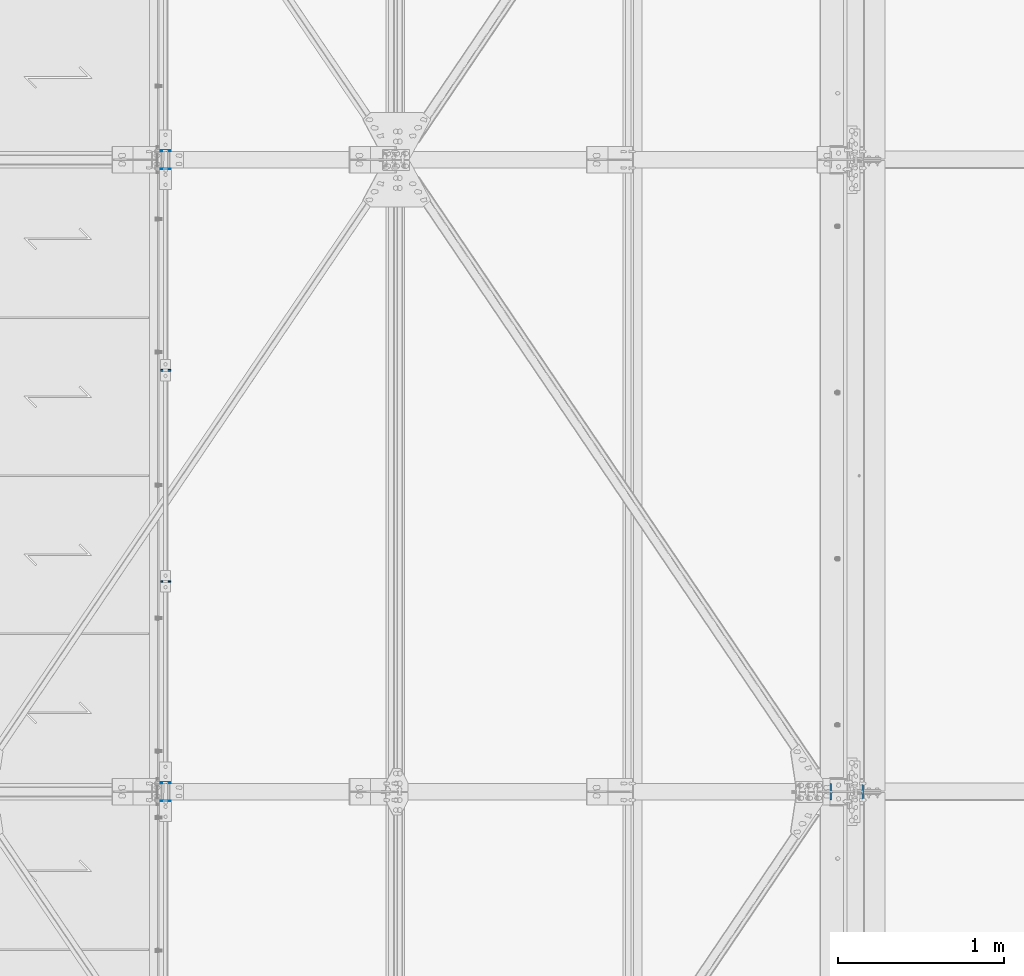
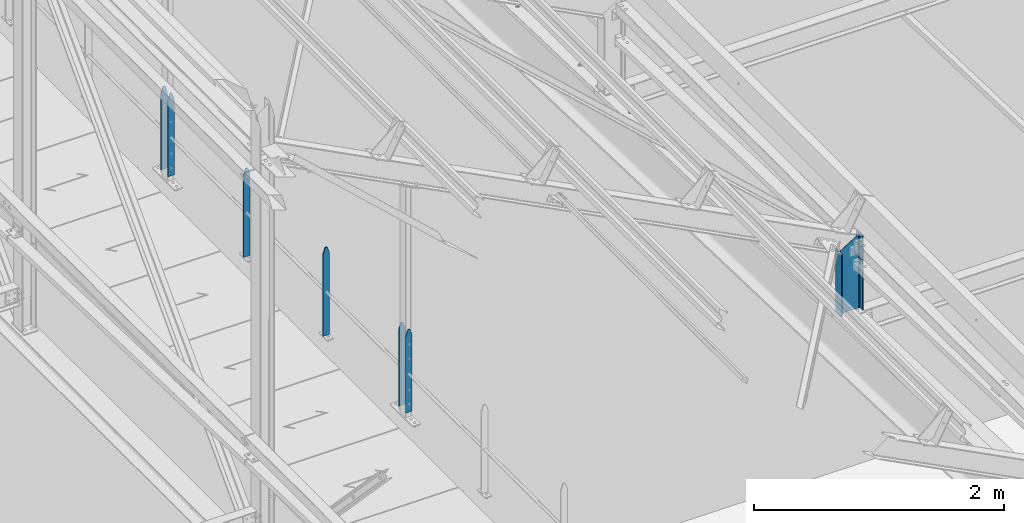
# One storey, part 32 of 362: 7 columns, 4 elements without a shape of their own.
"""IFC2X3 building model written with IfcOpenShell, lengths in millimetres."""

from ifc_helpers import new_model, si_unit, frame, origin_with_axes, origin_2d_with_axis, place, context, subcontext, project, spatial, rectangle, i_section, extrude, clip, halfspace, material, type_object, element, aggregate, save


model = new_model("IFC2X3")

# Units and contexts
model_context = context("Model", 3, precision=1e-05, world=origin_with_axes())
body_context = subcontext(model_context, "Body", "Model", "MODEL_VIEW")
ifc_project = project(units=[si_unit("LENGTHUNIT", "METRE", prefix="MILLI"), si_unit("AREAUNIT", "SQUARE_METRE"), si_unit("VOLUMEUNIT", "CUBIC_METRE"), si_unit("MASSUNIT", "GRAM", prefix="KILO"), si_unit("TIMEUNIT", "SECOND"), si_unit("PLANEANGLEUNIT", "RADIAN"), si_unit("SOLIDANGLEUNIT", "STERADIAN"), si_unit("THERMODYNAMICTEMPERATUREUNIT", "DEGREE_CELSIUS"), si_unit("LUMINOUSINTENSITYUNIT", "LUMEN")], contexts=[model_context])

# Site, building, storey
site_placement = place(None, origin_with_axes())
site = spatial("IfcSite", under=ifc_project, at=site_placement, Name="Undefined", CompositionType="ELEMENT")
building_placement = place(site_placement, origin_with_axes())
building = spatial("IfcBuilding", under=site, at=building_placement, Name="Undefined", CompositionType="ELEMENT")
storey_placement = place(building_placement, origin_with_axes())
storey = spatial("IfcBuildingStorey", under=building, at=storey_placement, Name="Undefined", CompositionType="ELEMENT", Elevation=0.0)

# Assembly, columns
assembly_1_placement = place(storey_placement, origin_with_axes())
assembly_1 = element("IfcElementAssembly", 1, at=assembly_1_placement, inside=storey, Name="MAIN COURANTE", AssemblyPlace="NOTDEFINED", PredefinedType="NOTDEFINED")
ifc_material_1 = material(Name="Undefined/S235-E24")
column_type_1 = type_object("IfcColumnType", Name="PL10*60", PredefinedType="NOTDEFINED")
column_1_placement = place(assembly_1_placement, frame((24783.991604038, 8865.0034395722, 8250.00000282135), z_axis=(0.0, 0.0, 1.0), x_axis=(1.0, 0.0, 0.0)))
column_1 = element("IfcColumn", 2, at=column_1_placement, type_object=column_type_1, material=ifc_material_1, Name="MONTANT", ObjectType="PL10*60", context=body_context, shape_type="Clipping", body=[
    clip(clip(extrude(rectangle(XDim=10.0, YDim=60.0, at=origin_2d_with_axis()), frame((0.0, 0.0, 857.599997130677), z_axis=(0.0, 0.0, -1.0), x_axis=(0.0, 1.0, 0.0)), (0.0, 0.0, 1.0), 857.6), halfspace(frame((30.0000001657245, -5.000000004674, 797.599997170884), z_axis=(0.948683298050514, 0.0, 0.316227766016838), x_axis=(-0.316227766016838, 0.0, 0.948683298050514)), False)), halfspace(frame((-29.9999998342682, 4.99999999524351, 797.599997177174), z_axis=(-0.948683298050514, 0.0, 0.316227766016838), x_axis=(0.316227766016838, 0.0, 0.948683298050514)), False)),
])
column_2_placement = place(assembly_1_placement, frame((24783.9916050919, 10135.0034395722, 8250.00000195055), z_axis=(0.0, 0.0, 1.0), x_axis=(1.0, 0.0, 0.0)))
column_2 = element("IfcColumn", 3, at=column_2_placement, type_object=column_type_1, material=ifc_material_1, Name="MONTANT", ObjectType="PL10*60", context=body_context, shape_type="Clipping", body=[
    clip(clip(extrude(rectangle(XDim=10.0, YDim=60.0, at=origin_2d_with_axis()), frame((0.0, 0.0, 857.599997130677), z_axis=(0.0, 0.0, -1.0), x_axis=(0.0, 1.0, 0.0)), (0.0, 0.0, 1.0), 857.6), halfspace(frame((30.0000001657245, -5.000000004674, 797.599997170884), z_axis=(0.948683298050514, 0.0, 0.316227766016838), x_axis=(-0.316227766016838, 0.0, 0.948683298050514)), False)), halfspace(frame((-29.9999998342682, 4.99999999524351, 797.599997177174), z_axis=(-0.948683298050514, 0.0, 0.316227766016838), x_axis=(0.316227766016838, 0.0, 0.948683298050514)), False)),
])

# Assembly, column
assembly_2_placement = place(storey_placement, origin_with_axes())
assembly_2 = element("IfcElementAssembly", 4, at=assembly_2_placement, inside=storey, Name="MAIN COURANTE", AssemblyPlace="NOTDEFINED", PredefinedType="NOTDEFINED")
column_type_2 = type_object("IfcColumnType", Name="PL5*60", PredefinedType="NOTDEFINED")
column_3_placement = place(assembly_2_placement, frame((24783.9916033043, 7545.00000132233, 8300.0000038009), z_axis=(0.0, 0.0, 1.0), x_axis=(1.0, 0.0, 0.0)))
column_3 = element("IfcColumn", 5, at=column_3_placement, type_object=column_type_2, material=ifc_material_1, Name="MONTANT", ObjectType="PL5*60", context=body_context, shape_type="Clipping", body=[
    clip(clip(extrude(rectangle(XDim=5.0, YDim=60.0, at=origin_2d_with_axis()), frame((0.0, 0.0, 807.599997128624), z_axis=(0.0, 0.0, -1.0), x_axis=(0.0, 1.0, 0.0)), (0.0, 0.0, 1.0), 807.6), halfspace(frame((29.9999999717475, -5.00000000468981, 747.599997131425), z_axis=(0.948683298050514, 0.0, 0.316227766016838), x_axis=(-0.316227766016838, 0.0, 0.948683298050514)), False)), halfspace(frame((-30.000000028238, 4.99999999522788, 747.599997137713), z_axis=(-0.948683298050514, 0.0, 0.316227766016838), x_axis=(0.316227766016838, 0.0, 0.948683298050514)), False)),
])
aggregate(assembly_2, [column_3])

assembly_3_placement = place(storey_placement, origin_with_axes())
assembly_3 = element("IfcElementAssembly", 6, at=assembly_3_placement, inside=storey, Name="MAIN COURANTE", AssemblyPlace="NOTDEFINED", PredefinedType="NOTDEFINED")
column_4_placement = place(assembly_3_placement, frame((24783.9916060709, 11455.000001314, 8300.00000101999), z_axis=(0.0, 0.0, 1.0), x_axis=(1.0, 0.0, 0.0)))
column_4 = element("IfcColumn", 7, at=column_4_placement, type_object=column_type_2, material=ifc_material_1, Name="MONTANT", ObjectType="PL5*60", context=body_context, shape_type="Clipping", body=[
    clip(clip(extrude(rectangle(XDim=5.0, YDim=60.0, at=origin_2d_with_axis()), frame((0.0, 0.0, 807.599997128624), z_axis=(0.0, 0.0, -1.0), x_axis=(0.0, 1.0, 0.0)), (0.0, 0.0, 1.0), 807.6), halfspace(frame((29.9999999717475, -5.00000000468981, 747.599997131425), z_axis=(0.948683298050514, 0.0, 0.316227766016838), x_axis=(-0.316227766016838, 0.0, 0.948683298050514)), False)), halfspace(frame((-30.000000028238, 4.99999999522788, 747.599997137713), z_axis=(-0.948683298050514, 0.0, 0.316227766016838), x_axis=(0.316227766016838, 0.0, 0.948683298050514)), False)),
])
aggregate(assembly_3, [column_4])

# Column
column_5_placement = place(assembly_1_placement, frame((24783.9916033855, 7655.00000131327, 8300.00000372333), z_axis=(0.0, 0.0, 1.0), x_axis=(1.0, 0.0, 0.0)))
column_5 = element("IfcColumn", 8, at=column_5_placement, type_object=column_type_2, material=ifc_material_1, Name="MONTANT", ObjectType="PL5*60", context=body_context, shape_type="Clipping", body=[
    clip(clip(extrude(rectangle(XDim=5.0, YDim=60.0, at=origin_2d_with_axis()), frame((0.0, 0.0, 807.599997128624), z_axis=(0.0, 0.0, -1.0), x_axis=(0.0, 1.0, 0.0)), (0.0, 0.0, 1.0), 807.6), halfspace(frame((29.9999999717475, -5.00000000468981, 747.599997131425), z_axis=(0.948683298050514, 0.0, 0.316227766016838), x_axis=(-0.316227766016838, 0.0, 0.948683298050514)), False)), halfspace(frame((-30.000000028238, 4.99999999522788, 747.599997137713), z_axis=(-0.948683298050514, 0.0, 0.316227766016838), x_axis=(0.316227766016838, 0.0, 0.948683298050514)), False)),
])

column_6_placement = place(assembly_1_placement, frame((24783.9916059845, 11345.0000013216, 8300.00000109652), z_axis=(0.0, 0.0, 1.0), x_axis=(1.0, 0.0, 0.0)))
column_6 = element("IfcColumn", 9, at=column_6_placement, type_object=column_type_2, material=ifc_material_1, Name="MONTANT", ObjectType="PL5*60", context=body_context, shape_type="Clipping", body=[
    clip(clip(extrude(rectangle(XDim=5.0, YDim=60.0, at=origin_2d_with_axis()), frame((0.0, 0.0, 807.599997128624), z_axis=(0.0, 0.0, -1.0), x_axis=(0.0, 1.0, 0.0)), (0.0, 0.0, 1.0), 807.6), halfspace(frame((29.9999999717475, -5.00000000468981, 747.599997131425), z_axis=(0.948683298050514, 0.0, 0.316227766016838), x_axis=(-0.316227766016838, 0.0, 0.948683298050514)), False)), halfspace(frame((-30.000000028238, 4.99999999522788, 747.599997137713), z_axis=(-0.948683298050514, 0.0, 0.316227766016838), x_axis=(0.316227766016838, 0.0, 0.948683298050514)), False)),
])

aggregate(assembly_1, [column_5, column_1, column_6, column_2])

# Assembly, column
assembly_4_placement = place(storey_placement, origin_with_axes())
assembly_4 = element("IfcElementAssembly", 10, at=assembly_4_placement, inside=storey, Name="TRAVERSE SHED", AssemblyPlace="NOTDEFINED", PredefinedType="NOTDEFINED")
ifc_material_2 = material(Name="Undefined/S275-E28")
column_type_3 = type_object("IfcColumnType", Name="IPE200", PredefinedType="NOTDEFINED")
column_7_placement = place(assembly_4_placement, frame((28880.0, 7600.0, 7811.16037857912), z_axis=(0.0, 0.0, 1.0), x_axis=(-1.0, 0.0, 0.0)))
column_7 = element("IfcColumn", 11, at=column_7_placement, type_object=column_type_3, material=ifc_material_2, Name="TRAVERSE SHED", ObjectType="IPE200", context=body_context, shape_type="Clipping", body=[
    clip(clip(extrude(i_section(OverallWidth=100.0, OverallDepth=200.0, WebThickness=5.599999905, FlangeThickness=8.5, FilletRadius=12.0, at=origin_2d_with_axis()), frame((0.0, 0.0, 741.034746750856), z_axis=(0.0, 0.0, -1.0), x_axis=(0.0, 1.0, 0.0)), (0.0, 0.0, 1.0), 794.03), halfspace(frame((-100.000000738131, 3800.0, 738.83962288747), z_axis=(0.519570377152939, 0.0, 0.854427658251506), x_axis=(0.0, 1.0, 0.0)), False)), halfspace(frame((0.0, -20.8974507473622, 9.34915825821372), z_axis=(0.0, 0.031410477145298, -0.999506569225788), x_axis=(1.0, 0.0, 0.0)), False)),
])
aggregate(assembly_4, [column_7])

save(model, "model.ifc")
